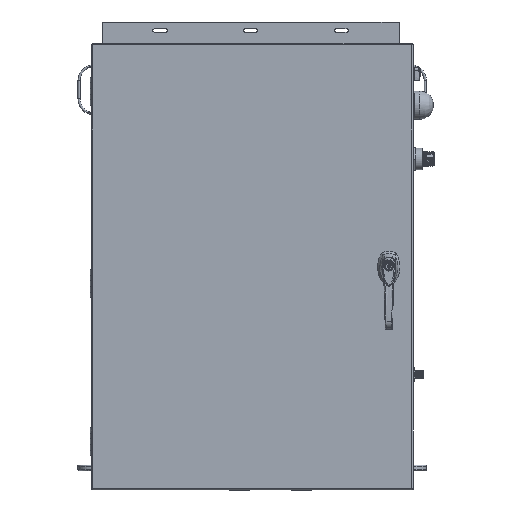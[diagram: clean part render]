
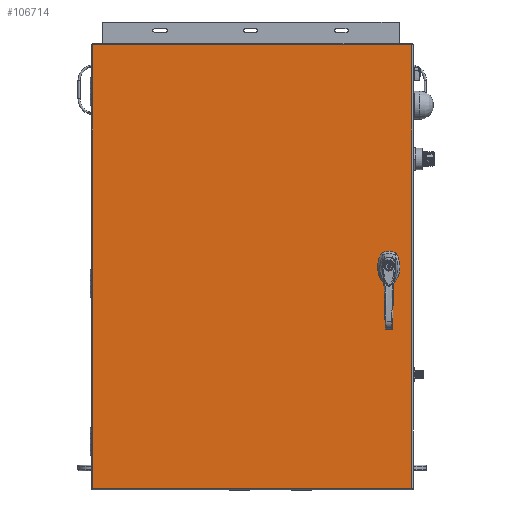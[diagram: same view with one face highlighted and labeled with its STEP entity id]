
A CAD part, front view. The second image highlights one B-rep face of the part: STEP entity #106714.
In plain terms, the highlighted planar face has unit normal (0, -1, 0).
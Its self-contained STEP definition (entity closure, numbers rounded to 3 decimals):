
#5233=FACE_BOUND('',#14522,.T.);
#5234=FACE_BOUND('',#14523,.T.);
#5661=PLANE('',#113188);
#8308=FACE_OUTER_BOUND('',#14521,.T.);
#14521=EDGE_LOOP('',(#68911,#68912,#68913,#68914));
#14522=EDGE_LOOP('',(#68915,#68916,#68917,#68918,#68919,#68920,#68921,#68922,
#68923,#68924,#68925,#68926,#68927,#68928,#68929,#68930));
#14523=EDGE_LOOP('',(#68931,#68932,#68933,#68934));
#21061=LINE('',#150796,#29425);
#21065=LINE('',#150813,#29429);
#21068=LINE('',#150822,#29432);
#21071=LINE('',#150829,#29435);
#21076=LINE('',#150843,#29440);
#21079=LINE('',#150849,#29443);
#21082=LINE('',#150855,#29446);
#21086=LINE('',#150867,#29450);
#21089=LINE('',#150873,#29453);
#21092=LINE('',#150879,#29456);
#21096=LINE('',#150891,#29460);
#21099=LINE('',#150897,#29463);
#21102=LINE('',#150903,#29466);
#21106=LINE('',#150915,#29470);
#21108=LINE('',#150918,#29472);
#21129=LINE('',#150980,#29493);
#21131=LINE('',#150988,#29495);
#21132=LINE('',#150989,#29496);
#29425=VECTOR('',#123478,39.37);
#29429=VECTOR('',#123494,39.37);
#29432=VECTOR('',#123505,39.37);
#29435=VECTOR('',#123510,39.37);
#29440=VECTOR('',#123523,39.37);
#29443=VECTOR('',#123528,39.37);
#29446=VECTOR('',#123533,39.37);
#29450=VECTOR('',#123545,39.37);
#29453=VECTOR('',#123550,39.37);
#29456=VECTOR('',#123555,39.37);
#29460=VECTOR('',#123567,39.37);
#29463=VECTOR('',#123572,39.37);
#29466=VECTOR('',#123577,39.37);
#29470=VECTOR('',#123589,39.37);
#29472=VECTOR('',#123593,39.37);
#29493=VECTOR('',#123660,39.37);
#29495=VECTOR('',#123668,39.37);
#29496=VECTOR('',#123669,39.37);
#37634=CIRCLE('',#113132,0.18);
#37636=CIRCLE('',#113136,0.18);
#37639=CIRCLE('',#113142,0.41);
#37641=CIRCLE('',#113148,0.41);
#37643=CIRCLE('',#113154,0.41);
#37645=CIRCLE('',#113160,0.41);
#42089=VERTEX_POINT('',#150783);
#42094=VERTEX_POINT('',#150794);
#42097=VERTEX_POINT('',#150802);
#42098=VERTEX_POINT('',#150804);
#42101=VERTEX_POINT('',#150811);
#42103=VERTEX_POINT('',#150817);
#42105=VERTEX_POINT('',#150826);
#42106=VERTEX_POINT('',#150828);
#42109=VERTEX_POINT('',#150836);
#42111=VERTEX_POINT('',#150841);
#42113=VERTEX_POINT('',#150847);
#42115=VERTEX_POINT('',#150853);
#42117=VERTEX_POINT('',#150860);
#42119=VERTEX_POINT('',#150865);
#42121=VERTEX_POINT('',#150871);
#42123=VERTEX_POINT('',#150877);
#42125=VERTEX_POINT('',#150884);
#42127=VERTEX_POINT('',#150889);
#42129=VERTEX_POINT('',#150895);
#42131=VERTEX_POINT('',#150901);
#42133=VERTEX_POINT('',#150908);
#42135=VERTEX_POINT('',#150913);
#42153=VERTEX_POINT('',#150979);
#42156=VERTEX_POINT('',#150987);
#52288=EDGE_CURVE('',#42089,#42094,#21061,.T.);
#52292=EDGE_CURVE('',#42097,#42098,#37634,.T.);
#52296=EDGE_CURVE('',#42101,#42097,#21065,.T.);
#52299=EDGE_CURVE('',#42103,#42101,#37636,.T.);
#52301=EDGE_CURVE('',#42098,#42103,#21068,.T.);
#52304=EDGE_CURVE('',#42105,#42106,#21071,.T.);
#52309=EDGE_CURVE('',#42105,#42109,#37639,.T.);
#52311=EDGE_CURVE('',#42111,#42109,#21076,.T.);
#52314=EDGE_CURVE('',#42113,#42111,#21079,.T.);
#52317=EDGE_CURVE('',#42115,#42113,#21082,.T.);
#52321=EDGE_CURVE('',#42115,#42117,#37641,.T.);
#52323=EDGE_CURVE('',#42119,#42117,#21086,.T.);
#52326=EDGE_CURVE('',#42121,#42119,#21089,.T.);
#52329=EDGE_CURVE('',#42123,#42121,#21092,.T.);
#52333=EDGE_CURVE('',#42123,#42125,#37643,.T.);
#52335=EDGE_CURVE('',#42127,#42125,#21096,.T.);
#52338=EDGE_CURVE('',#42129,#42127,#21099,.T.);
#52341=EDGE_CURVE('',#42131,#42129,#21102,.T.);
#52345=EDGE_CURVE('',#42131,#42133,#37645,.T.);
#52347=EDGE_CURVE('',#42135,#42133,#21106,.T.);
#52349=EDGE_CURVE('',#42106,#42135,#21108,.T.);
#52380=EDGE_CURVE('',#42153,#42089,#21129,.T.);
#52384=EDGE_CURVE('',#42094,#42156,#21131,.T.);
#52385=EDGE_CURVE('',#42156,#42153,#21132,.T.);
#68911=ORIENTED_EDGE('',*,*,#52384,.T.);
#68912=ORIENTED_EDGE('',*,*,#52385,.T.);
#68913=ORIENTED_EDGE('',*,*,#52380,.T.);
#68914=ORIENTED_EDGE('',*,*,#52288,.T.);
#68915=ORIENTED_EDGE('',*,*,#52304,.F.);
#68916=ORIENTED_EDGE('',*,*,#52309,.T.);
#68917=ORIENTED_EDGE('',*,*,#52311,.F.);
#68918=ORIENTED_EDGE('',*,*,#52314,.F.);
#68919=ORIENTED_EDGE('',*,*,#52317,.F.);
#68920=ORIENTED_EDGE('',*,*,#52321,.T.);
#68921=ORIENTED_EDGE('',*,*,#52323,.F.);
#68922=ORIENTED_EDGE('',*,*,#52326,.F.);
#68923=ORIENTED_EDGE('',*,*,#52329,.F.);
#68924=ORIENTED_EDGE('',*,*,#52333,.T.);
#68925=ORIENTED_EDGE('',*,*,#52335,.F.);
#68926=ORIENTED_EDGE('',*,*,#52338,.F.);
#68927=ORIENTED_EDGE('',*,*,#52341,.F.);
#68928=ORIENTED_EDGE('',*,*,#52345,.T.);
#68929=ORIENTED_EDGE('',*,*,#52347,.F.);
#68930=ORIENTED_EDGE('',*,*,#52349,.F.);
#68931=ORIENTED_EDGE('',*,*,#52292,.F.);
#68932=ORIENTED_EDGE('',*,*,#52296,.F.);
#68933=ORIENTED_EDGE('',*,*,#52299,.F.);
#68934=ORIENTED_EDGE('',*,*,#52301,.F.);
#106714=ADVANCED_FACE('',(#8308,#5233,#5234),#5661,.T.);
#113132=AXIS2_PLACEMENT_3D('',#150805,#123486,#123487);
#113136=AXIS2_PLACEMENT_3D('',#150819,#123499,#123500);
#113142=AXIS2_PLACEMENT_3D('',#150838,#123518,#123519);
#113148=AXIS2_PLACEMENT_3D('',#150862,#123540,#123541);
#113154=AXIS2_PLACEMENT_3D('',#150886,#123562,#123563);
#113160=AXIS2_PLACEMENT_3D('',#150910,#123584,#123585);
#113188=AXIS2_PLACEMENT_3D('',#150986,#123666,#123667);
#123478=DIRECTION('',(0.,0.,1.));
#123486=DIRECTION('center_axis',(0.,-1.,0.));
#123487=DIRECTION('ref_axis',(1.,0.,0.));
#123494=DIRECTION('',(0.,0.,1.));
#123499=DIRECTION('center_axis',(0.,-1.,0.));
#123500=DIRECTION('ref_axis',(-1.,0.,0.));
#123505=DIRECTION('',(0.,0.,-1.));
#123510=DIRECTION('',(1.,0.,0.));
#123518=DIRECTION('center_axis',(0.,1.,0.));
#123519=DIRECTION('ref_axis',(1.,0.,0.));
#123523=DIRECTION('',(1.,0.,0.));
#123528=DIRECTION('',(0.707,0.,-0.707));
#123533=DIRECTION('',(0.,0.,-1.));
#123540=DIRECTION('center_axis',(0.,1.,0.));
#123541=DIRECTION('ref_axis',(1.,0.,0.));
#123545=DIRECTION('',(0.,0.,-1.));
#123550=DIRECTION('',(-0.707,0.,-0.707));
#123555=DIRECTION('',(-1.,0.,0.));
#123562=DIRECTION('center_axis',(0.,1.,0.));
#123563=DIRECTION('ref_axis',(1.,0.,0.));
#123567=DIRECTION('',(-1.,0.,0.));
#123572=DIRECTION('',(-0.707,0.,0.707));
#123577=DIRECTION('',(0.,0.,1.));
#123584=DIRECTION('center_axis',(0.,1.,0.));
#123585=DIRECTION('ref_axis',(1.,0.,0.));
#123589=DIRECTION('',(0.,0.,1.));
#123593=DIRECTION('',(0.707,0.,0.707));
#123660=DIRECTION('',(1.,0.,0.));
#123666=DIRECTION('center_axis',(0.,-1.,0.));
#123667=DIRECTION('ref_axis',(1.,0.,0.));
#123668=DIRECTION('',(-1.,0.,0.));
#123669=DIRECTION('',(0.,0.,-1.));
#150783=CARTESIAN_POINT('',(14.566,-8.921,-19.831));
#150794=CARTESIAN_POINT('',(14.566,-8.921,19.34));
#150796=CARTESIAN_POINT('',(14.566,-8.921,-16.831));
#150802=CARTESIAN_POINT('',(12.708,-8.921,-1.566));
#150804=CARTESIAN_POINT('',(12.348,-8.921,-1.566));
#150805=CARTESIAN_POINT('Origin',(12.528,-8.921,-1.566));
#150811=CARTESIAN_POINT('',(12.708,-8.921,-1.591));
#150813=CARTESIAN_POINT('',(12.708,-8.921,-1.566));
#150817=CARTESIAN_POINT('',(12.348,-8.921,-1.591));
#150819=CARTESIAN_POINT('Origin',(12.528,-8.921,-1.591));
#150822=CARTESIAN_POINT('',(12.348,-8.921,-1.566));
#150826=CARTESIAN_POINT('',(12.578,-8.921,-0.652));
#150828=CARTESIAN_POINT('',(12.776,-8.921,-0.652));
#150829=CARTESIAN_POINT('',(12.281,-8.921,-0.652));
#150836=CARTESIAN_POINT('',(12.479,-8.921,-0.652));
#150838=CARTESIAN_POINT('Origin',(12.528,-8.921,-0.245));
#150841=CARTESIAN_POINT('',(12.281,-8.921,-0.652));
#150843=CARTESIAN_POINT('',(12.281,-8.921,-0.652));
#150847=CARTESIAN_POINT('',(12.121,-8.921,-0.493));
#150849=CARTESIAN_POINT('',(12.121,-8.921,-0.493));
#150853=CARTESIAN_POINT('',(12.121,-8.921,-0.295));
#150855=CARTESIAN_POINT('',(12.121,-8.921,0.002));
#150860=CARTESIAN_POINT('',(12.121,-8.921,-0.196));
#150862=CARTESIAN_POINT('Origin',(12.528,-8.921,-0.245));
#150865=CARTESIAN_POINT('',(12.121,-8.921,0.002));
#150867=CARTESIAN_POINT('',(12.121,-8.921,0.002));
#150871=CARTESIAN_POINT('',(12.281,-8.921,0.162));
#150873=CARTESIAN_POINT('',(12.281,-8.921,0.162));
#150877=CARTESIAN_POINT('',(12.479,-8.921,0.162));
#150879=CARTESIAN_POINT('',(12.776,-8.921,0.162));
#150884=CARTESIAN_POINT('',(12.578,-8.921,0.162));
#150886=CARTESIAN_POINT('Origin',(12.528,-8.921,-0.245));
#150889=CARTESIAN_POINT('',(12.776,-8.921,0.162));
#150891=CARTESIAN_POINT('',(12.776,-8.921,0.162));
#150895=CARTESIAN_POINT('',(12.935,-8.921,0.002));
#150897=CARTESIAN_POINT('',(12.935,-8.921,0.002));
#150901=CARTESIAN_POINT('',(12.935,-8.921,-0.196));
#150903=CARTESIAN_POINT('',(12.935,-8.921,-0.493));
#150908=CARTESIAN_POINT('',(12.935,-8.921,-0.295));
#150910=CARTESIAN_POINT('Origin',(12.528,-8.921,-0.245));
#150913=CARTESIAN_POINT('',(12.935,-8.921,-0.493));
#150915=CARTESIAN_POINT('',(12.935,-8.921,-0.493));
#150918=CARTESIAN_POINT('',(12.776,-8.921,-0.652));
#150979=CARTESIAN_POINT('',(-13.591,-8.921,-19.831));
#150980=CARTESIAN_POINT('',(-13.63,-8.921,-19.831));
#150986=CARTESIAN_POINT('Origin',(-13.63,-8.921,-16.87));
#150987=CARTESIAN_POINT('',(-13.591,-8.921,19.34));
#150988=CARTESIAN_POINT('',(14.566,-8.921,19.34));
#150989=CARTESIAN_POINT('',(-13.591,-8.921,16.38));
